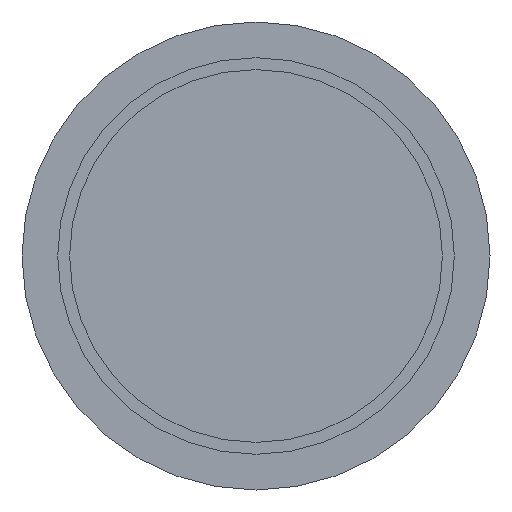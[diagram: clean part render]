
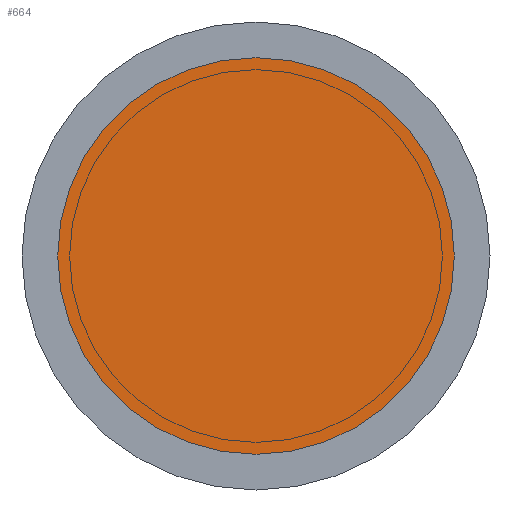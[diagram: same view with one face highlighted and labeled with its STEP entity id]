
A CAD part, left-side view. The second image highlights one B-rep face of the part: STEP entity #664.
In plain terms, the highlighted planar face has unit normal (-1, 0, 0).
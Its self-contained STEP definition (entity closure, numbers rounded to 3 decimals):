
#596=VERTEX_POINT('',#1337);
#618=VERTEX_POINT('',#1361);
#664=ADVANCED_FACE('',(#1411),#1412,.T.);
#790=EDGE_CURVE('',#618,#596,#1551,.T.);
#890=EDGE_CURVE('',#596,#618,#1661,.T.);
#1337=CARTESIAN_POINT('',(-0.1,0.,-75.0));
#1361=CARTESIAN_POINT('',(-0.1,0.0,75.0));
#1411=FACE_OUTER_BOUND('',#2501,.T.);
#1412=PLANE('',#2502);
#1551=CIRCLE('',#2786,75.0);
#1661=CIRCLE('',#3006,75.0);
#2501=EDGE_LOOP('',(#3926,#3927));
#2502=AXIS2_PLACEMENT_3D('',#3928,#3929,#3930);
#2786=AXIS2_PLACEMENT_3D('',#4087,#4088,#4089);
#3006=AXIS2_PLACEMENT_3D('',#4212,#4213,#4214);
#3926=ORIENTED_EDGE('',*,*,#790,.T.);
#3927=ORIENTED_EDGE('',*,*,#890,.T.);
#3928=CARTESIAN_POINT('',(-0.1,0.0,0.0));
#3929=DIRECTION('',(-1.0,0.0,0.0));
#3930=DIRECTION('',(0.0,0.0,1.0));
#4087=CARTESIAN_POINT('',(-0.1,0.0,0.0));
#4088=DIRECTION('',(-1.0,0.0,0.0));
#4089=DIRECTION('',(0.0,0.0,1.0));
#4212=CARTESIAN_POINT('',(-0.1,0.0,0.0));
#4213=DIRECTION('',(-1.0,0.0,0.0));
#4214=DIRECTION('',(0.0,0.0,1.0));
